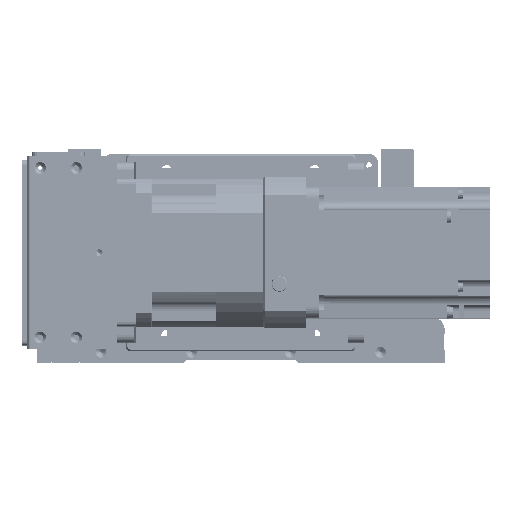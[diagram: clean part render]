
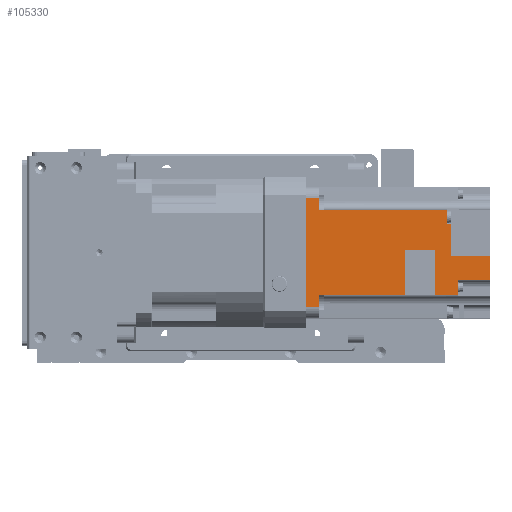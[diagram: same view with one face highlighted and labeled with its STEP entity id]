
A CAD part, front view. The second image highlights one B-rep face of the part: STEP entity #105330.
In plain terms, the highlighted planar face has unit normal (0, -1, 0.003).
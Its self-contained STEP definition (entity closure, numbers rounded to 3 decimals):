
#7563=FACE_OUTER_BOUND('',#13743,.T.);
#13743=EDGE_LOOP('',(#85306,#85307,#85308,#85309,#85310,#85311,#85312,#85313,
#85314,#85315,#85316,#85317,#85318,#85319,#85320,#85321,#85322,#85323,#85324,
#85325,#85326,#85327,#85328,#85329,#85330,#85331));
#24801=LINE('',#168649,#36447);
#24802=LINE('',#168652,#36448);
#24807=LINE('',#168694,#36453);
#24811=LINE('',#168723,#36457);
#24814=LINE('',#168734,#36460);
#24815=LINE('',#168738,#36461);
#24816=LINE('',#168740,#36462);
#24817=LINE('',#168741,#36463);
#24818=LINE('',#168743,#36464);
#24819=LINE('',#168745,#36465);
#24820=LINE('',#168747,#36466);
#24821=LINE('',#168748,#36467);
#24822=LINE('',#168750,#36468);
#24823=LINE('',#168752,#36469);
#24824=LINE('',#168754,#36470);
#24825=LINE('',#168756,#36471);
#24826=LINE('',#168758,#36472);
#24827=LINE('',#168760,#36473);
#24828=LINE('',#168762,#36474);
#24829=LINE('',#168764,#36475);
#24830=LINE('',#168766,#36476);
#24831=LINE('',#168768,#36477);
#24832=LINE('',#168770,#36478);
#24833=LINE('',#168772,#36479);
#24834=LINE('',#168774,#36480);
#24835=LINE('',#168775,#36481);
#36447=VECTOR('',#134868,3.);
#36448=VECTOR('',#134871,0.009);
#36453=VECTOR('',#134910,0.009);
#36457=VECTOR('',#134940,7.342);
#36460=VECTOR('',#134951,8.);
#36461=VECTOR('',#134954,2.548);
#36462=VECTOR('',#134955,2.682);
#36463=VECTOR('',#134956,75.);
#36464=VECTOR('',#134957,66.);
#36465=VECTOR('',#134958,8.);
#36466=VECTOR('',#134959,7.342);
#36467=VECTOR('',#134960,3.);
#36468=VECTOR('',#134961,49.1);
#36469=VECTOR('',#134962,27.466);
#36470=VECTOR('',#134963,18.55);
#36471=VECTOR('',#134964,27.466);
#36472=VECTOR('',#134965,13.85);
#36473=VECTOR('',#134966,8.966);
#36474=VECTOR('',#134967,19.5);
#36475=VECTOR('',#134968,14.5);
#36476=VECTOR('',#134969,23.5);
#36477=VECTOR('',#134970,19.4);
#36478=VECTOR('',#134971,0.5);
#36479=VECTOR('',#134972,0.001);
#36480=VECTOR('',#134973,2.);
#36481=VECTOR('',#134974,3.238);
#48238=VERTEX_POINT('',#168643);
#48240=VERTEX_POINT('',#168647);
#48241=VERTEX_POINT('',#168651);
#48260=VERTEX_POINT('',#168691);
#48261=VERTEX_POINT('',#168693);
#48272=VERTEX_POINT('',#168720);
#48277=VERTEX_POINT('',#168732);
#48278=VERTEX_POINT('',#168736);
#48279=VERTEX_POINT('',#168737);
#48280=VERTEX_POINT('',#168739);
#48281=VERTEX_POINT('',#168742);
#48282=VERTEX_POINT('',#168744);
#48283=VERTEX_POINT('',#168746);
#48284=VERTEX_POINT('',#168749);
#48285=VERTEX_POINT('',#168751);
#48286=VERTEX_POINT('',#168753);
#48287=VERTEX_POINT('',#168755);
#48288=VERTEX_POINT('',#168757);
#48289=VERTEX_POINT('',#168759);
#48290=VERTEX_POINT('',#168761);
#48291=VERTEX_POINT('',#168763);
#48292=VERTEX_POINT('',#168765);
#48293=VERTEX_POINT('',#168767);
#48294=VERTEX_POINT('',#168769);
#48295=VERTEX_POINT('',#168771);
#48296=VERTEX_POINT('',#168773);
#61290=EDGE_CURVE('',#48240,#48238,#24801,.T.);
#61291=EDGE_CURVE('',#48238,#48241,#24802,.T.);
#61311=EDGE_CURVE('',#48260,#48261,#24807,.T.);
#61325=EDGE_CURVE('',#48240,#48272,#24811,.T.);
#61331=EDGE_CURVE('',#48272,#48277,#24814,.T.);
#61332=EDGE_CURVE('',#48278,#48279,#24815,.T.);
#61333=EDGE_CURVE('',#48280,#48278,#24816,.T.);
#61334=EDGE_CURVE('',#48280,#48241,#24817,.T.);
#61335=EDGE_CURVE('',#48277,#48281,#24818,.T.);
#61336=EDGE_CURVE('',#48281,#48282,#24819,.T.);
#61337=EDGE_CURVE('',#48282,#48283,#24820,.T.);
#61338=EDGE_CURVE('',#48283,#48261,#24821,.T.);
#61339=EDGE_CURVE('',#48284,#48260,#24822,.T.);
#61340=EDGE_CURVE('',#48284,#48285,#24823,.T.);
#61341=EDGE_CURVE('',#48285,#48286,#24824,.T.);
#61342=EDGE_CURVE('',#48287,#48286,#24825,.T.);
#61343=EDGE_CURVE('',#48287,#48288,#24826,.T.);
#61344=EDGE_CURVE('',#48289,#48288,#24827,.T.);
#61345=EDGE_CURVE('',#48290,#48289,#24828,.T.);
#61346=EDGE_CURVE('',#48290,#48291,#24829,.T.);
#61347=EDGE_CURVE('',#48291,#48292,#24830,.T.);
#61348=EDGE_CURVE('',#48292,#48293,#24831,.T.);
#61349=EDGE_CURVE('',#48293,#48294,#24832,.T.);
#61350=EDGE_CURVE('',#48295,#48294,#24833,.T.);
#61351=EDGE_CURVE('',#48295,#48296,#24834,.T.);
#61352=EDGE_CURVE('',#48279,#48296,#24835,.T.);
#85306=ORIENTED_EDGE('',*,*,#61332,.F.);
#85307=ORIENTED_EDGE('',*,*,#61333,.F.);
#85308=ORIENTED_EDGE('',*,*,#61334,.T.);
#85309=ORIENTED_EDGE('',*,*,#61291,.F.);
#85310=ORIENTED_EDGE('',*,*,#61290,.F.);
#85311=ORIENTED_EDGE('',*,*,#61325,.T.);
#85312=ORIENTED_EDGE('',*,*,#61331,.T.);
#85313=ORIENTED_EDGE('',*,*,#61335,.T.);
#85314=ORIENTED_EDGE('',*,*,#61336,.T.);
#85315=ORIENTED_EDGE('',*,*,#61337,.T.);
#85316=ORIENTED_EDGE('',*,*,#61338,.T.);
#85317=ORIENTED_EDGE('',*,*,#61311,.F.);
#85318=ORIENTED_EDGE('',*,*,#61339,.F.);
#85319=ORIENTED_EDGE('',*,*,#61340,.T.);
#85320=ORIENTED_EDGE('',*,*,#61341,.T.);
#85321=ORIENTED_EDGE('',*,*,#61342,.F.);
#85322=ORIENTED_EDGE('',*,*,#61343,.T.);
#85323=ORIENTED_EDGE('',*,*,#61344,.F.);
#85324=ORIENTED_EDGE('',*,*,#61345,.F.);
#85325=ORIENTED_EDGE('',*,*,#61346,.T.);
#85326=ORIENTED_EDGE('',*,*,#61347,.T.);
#85327=ORIENTED_EDGE('',*,*,#61348,.T.);
#85328=ORIENTED_EDGE('',*,*,#61349,.T.);
#85329=ORIENTED_EDGE('',*,*,#61350,.F.);
#85330=ORIENTED_EDGE('',*,*,#61351,.T.);
#85331=ORIENTED_EDGE('',*,*,#61352,.F.);
#100036=PLANE('',#114404);
#105330=ADVANCED_FACE('',(#7563),#100036,.F.);
#114404=AXIS2_PLACEMENT_3D('',#168735,#134952,#134953);
#134868=DIRECTION('',(0.,0.,-1.));
#134871=DIRECTION('',(1.,0.,0.));
#134910=DIRECTION('',(1.,0.,0.));
#134940=DIRECTION('',(1.,0.,0.));
#134951=DIRECTION('',(0.,0.,1.));
#134952=DIRECTION('center_axis',(0.,1.,0.));
#134953=DIRECTION('ref_axis',(1.,0.,0.));
#134954=DIRECTION('',(-1.,0.,0.));
#134955=DIRECTION('',(-1.,0.,0.));
#134956=DIRECTION('',(0.,0.,1.));
#134957=DIRECTION('',(-1.,0.,0.));
#134958=DIRECTION('',(0.,0.,-1.));
#134959=DIRECTION('',(1.,0.,0.));
#134960=DIRECTION('',(0.,0.,-1.));
#134961=DIRECTION('',(0.,0.,1.));
#134962=DIRECTION('',(1.,0.,0.));
#134963=DIRECTION('',(0.,0.,-1.));
#134964=DIRECTION('',(1.,0.,0.));
#134965=DIRECTION('',(0.,0.,-1.));
#134966=DIRECTION('',(-1.,0.,0.));
#134967=DIRECTION('',(0.,0.,1.));
#134968=DIRECTION('',(1.,0.,0.));
#134969=DIRECTION('',(0.,0.,1.));
#134970=DIRECTION('',(1.,0.,0.));
#134971=DIRECTION('',(0.,0.,1.));
#134972=DIRECTION('',(1.,0.,0.));
#134973=DIRECTION('',(0.,0.,1.));
#134974=DIRECTION('',(-1.,0.,0.));
#168643=CARTESIAN_POINT('',(25.658,-40.,-11.));
#168647=CARTESIAN_POINT('',(25.658,-40.,-8.));
#168649=CARTESIAN_POINT('',(25.658,-40.,-8.));
#168651=CARTESIAN_POINT('',(25.666,-40.,-11.));
#168652=CARTESIAN_POINT('',(25.658,-40.,-11.));
#168691=CARTESIAN_POINT('',(-25.666,-40.,-11.));
#168693=CARTESIAN_POINT('',(-25.658,-40.,-11.));
#168694=CARTESIAN_POINT('',(-25.666,-40.,-11.));
#168720=CARTESIAN_POINT('',(33.,-40.,-8.));
#168723=CARTESIAN_POINT('',(25.658,-40.,-8.));
#168732=CARTESIAN_POINT('',(33.,-40.,0.));
#168734=CARTESIAN_POINT('',(33.,-40.,-8.));
#168735=CARTESIAN_POINT('Origin',(0.,-40.,-5.5));
#168736=CARTESIAN_POINT('',(22.985,-40.,-86.));
#168737=CARTESIAN_POINT('',(20.437,-40.,-86.));
#168738=CARTESIAN_POINT('',(22.985,-40.,-86.));
#168739=CARTESIAN_POINT('',(25.666,-40.,-86.));
#168740=CARTESIAN_POINT('',(25.666,-40.,-86.));
#168741=CARTESIAN_POINT('',(25.666,-40.,-86.));
#168742=CARTESIAN_POINT('',(-33.,-40.,0.));
#168743=CARTESIAN_POINT('',(33.,-40.,0.));
#168744=CARTESIAN_POINT('',(-33.,-40.,-8.));
#168745=CARTESIAN_POINT('',(-33.,-40.,0.));
#168746=CARTESIAN_POINT('',(-25.658,-40.,-8.));
#168747=CARTESIAN_POINT('',(-33.,-40.,-8.));
#168748=CARTESIAN_POINT('',(-25.658,-40.,-8.));
#168749=CARTESIAN_POINT('',(-25.666,-40.,-60.1));
#168750=CARTESIAN_POINT('',(-25.666,-40.,-60.1));
#168751=CARTESIAN_POINT('',(1.8,-40.,-60.1));
#168752=CARTESIAN_POINT('',(-25.666,-40.,-60.1));
#168753=CARTESIAN_POINT('',(1.8,-40.,-78.65));
#168754=CARTESIAN_POINT('',(1.8,-40.,-60.1));
#168755=CARTESIAN_POINT('',(-25.666,-40.,-78.65));
#168756=CARTESIAN_POINT('',(-25.666,-40.,-78.65));
#168757=CARTESIAN_POINT('',(-25.666,-40.,-92.5));
#168758=CARTESIAN_POINT('',(-25.666,-40.,-78.65));
#168759=CARTESIAN_POINT('',(-16.7,-40.,-92.5));
#168760=CARTESIAN_POINT('',(-16.7,-40.,-92.5));
#168761=CARTESIAN_POINT('',(-16.7,-40.,-112.));
#168762=CARTESIAN_POINT('',(-16.7,-40.,-112.));
#168763=CARTESIAN_POINT('',(-2.2,-40.,-112.));
#168764=CARTESIAN_POINT('',(-16.7,-40.,-112.));
#168765=CARTESIAN_POINT('',(-2.2,-40.,-88.5));
#168766=CARTESIAN_POINT('',(-2.2,-40.,-112.));
#168767=CARTESIAN_POINT('',(17.2,-40.,-88.5));
#168768=CARTESIAN_POINT('',(-2.2,-40.,-88.5));
#168769=CARTESIAN_POINT('',(17.2,-40.,-88.));
#168770=CARTESIAN_POINT('',(17.2,-40.,-88.5));
#168771=CARTESIAN_POINT('',(17.199,-40.,-88.));
#168772=CARTESIAN_POINT('',(17.199,-40.,-88.));
#168773=CARTESIAN_POINT('',(17.199,-40.,-86.));
#168774=CARTESIAN_POINT('',(17.199,-40.,-88.));
#168775=CARTESIAN_POINT('',(20.437,-40.,-86.));
